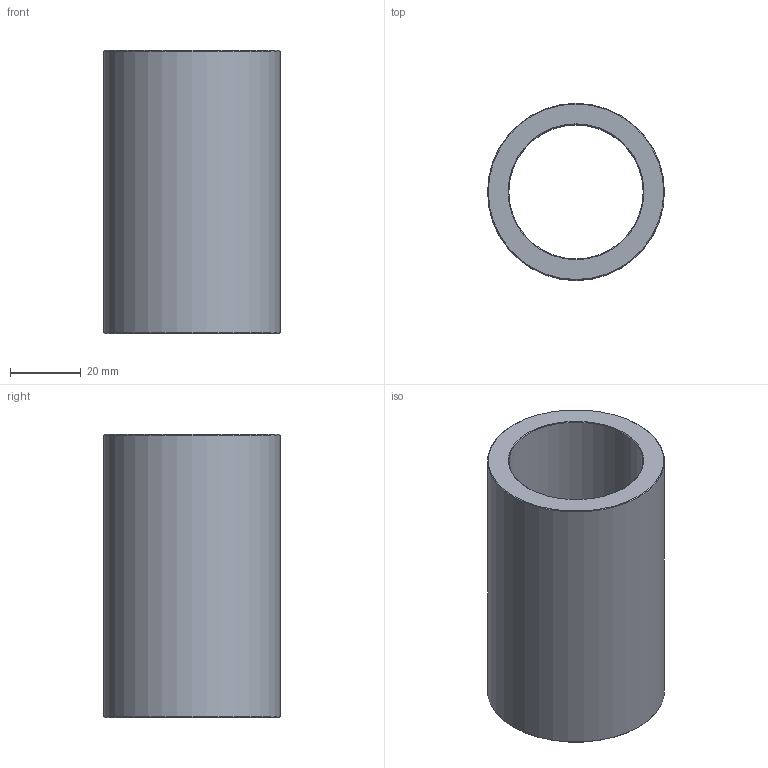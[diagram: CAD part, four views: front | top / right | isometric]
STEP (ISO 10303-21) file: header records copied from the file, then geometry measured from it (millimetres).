
FILE_DESCRIPTION(('STEP AP203'),'1');
FILE_NAME('C:/Users/Rodrigo/Desktop/GA6.038.080-1.step','2016-11-07T18:21:42',(' '),(' '),'Spatial InterOp 3D',' ',' ');
FILE_SCHEMA(('CONFIG_CONTROL_DESIGN'));
Length unit declared in the file: millimetre
Products named in the file (1): 1
Bounding box: 50 x 50 x 80 mm (x, y, z)
Volume: 66339.4 mm3; surface area: 23710.8 mm2
Topology: 1 solids, 1 shells, 8 faces, 14 edges, 8 vertices
Faces by surface type: cone 4, cylinder 2, plane 2
Full cylindrical faces by diameter (mm): 38 x1, 50 x1
Entity records: 212 total; most frequent: DIRECTION 34, CARTESIAN_POINT 25, AXIS2_PLACEMENT_3D 17, EDGE_LOOP 16, ORIENTED_EDGE 16, FACE_OUTER_BOUND 10, ADVANCED_FACE 8, EDGE_CURVE 8
